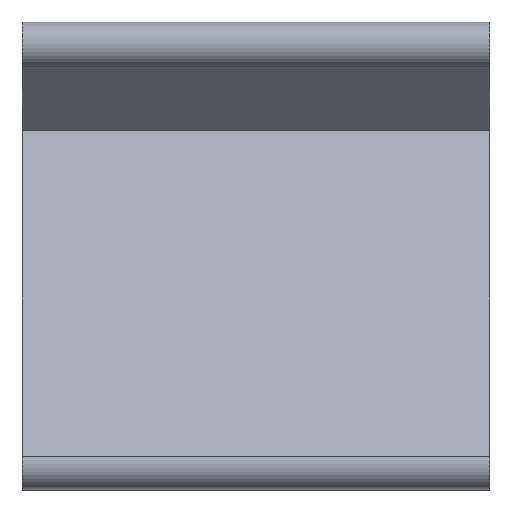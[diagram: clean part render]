
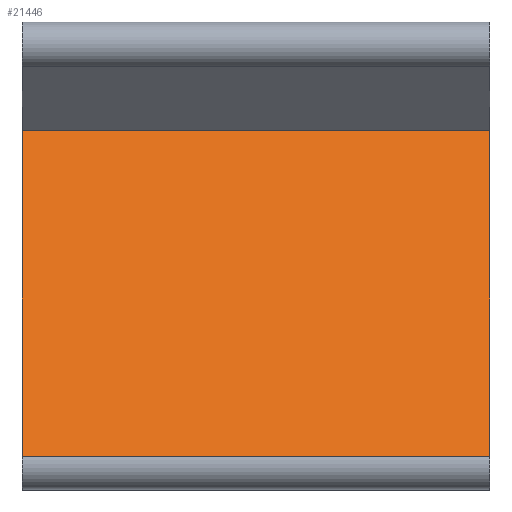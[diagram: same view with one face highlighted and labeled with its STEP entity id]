
A CAD part, top view. The second image highlights one B-rep face of the part: STEP entity #21446.
In plain terms, the highlighted planar face has unit normal (0, 0.423, 0.906).
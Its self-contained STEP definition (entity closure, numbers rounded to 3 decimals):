
#2053=FACE_OUTER_BOUND('',#3250,.T.);
#3250=EDGE_LOOP('',(#19895,#19896,#19897,#19898));
#4802=LINE('',#44796,#6359);
#4803=LINE('',#44799,#6360);
#4804=LINE('',#44801,#6361);
#4805=LINE('',#44802,#6362);
#6359=VECTOR('',#23939,10.);
#6360=VECTOR('',#23942,10.);
#6361=VECTOR('',#23943,10.);
#6362=VECTOR('',#23944,10.);
#10218=VERTEX_POINT('',#44792);
#10219=VERTEX_POINT('',#44794);
#10220=VERTEX_POINT('',#44798);
#10221=VERTEX_POINT('',#44800);
#13450=EDGE_CURVE('',#10218,#10219,#4802,.T.);
#13451=EDGE_CURVE('',#10218,#10220,#4803,.T.);
#13452=EDGE_CURVE('',#10221,#10219,#4804,.T.);
#13453=EDGE_CURVE('',#10220,#10221,#4805,.T.);
#19895=ORIENTED_EDGE('',*,*,#13451,.F.);
#19896=ORIENTED_EDGE('',*,*,#13450,.T.);
#19897=ORIENTED_EDGE('',*,*,#13452,.F.);
#19898=ORIENTED_EDGE('',*,*,#13453,.F.);
#20260=PLANE('',#21783);
#21446=ADVANCED_FACE('',(#2053),#20260,.T.);
#21783=AXIS2_PLACEMENT_3D('',#44797,#23940,#23941);
#23939=DIRECTION('',(1.,0.,0.));
#23940=DIRECTION('center_axis',(0.,0.423,0.906));
#23941=DIRECTION('ref_axis',(0.,-0.906,0.423));
#23942=DIRECTION('',(0.,0.906,-0.423));
#23943=DIRECTION('',(0.,-0.906,0.423));
#23944=DIRECTION('',(1.,0.,0.));
#44792=CARTESIAN_POINT('',(0.,22.762,121.501));
#44794=CARTESIAN_POINT('',(320.,22.762,121.501));
#44796=CARTESIAN_POINT('',(0.,22.762,121.501));
#44797=CARTESIAN_POINT('Origin',(0.,249.354,15.839));
#44798=CARTESIAN_POINT('',(0.,249.354,15.839));
#44799=CARTESIAN_POINT('',(0.,22.762,121.501));
#44800=CARTESIAN_POINT('',(320.,249.354,15.839));
#44801=CARTESIAN_POINT('',(320.,22.762,121.501));
#44802=CARTESIAN_POINT('',(0.,249.354,15.839));
